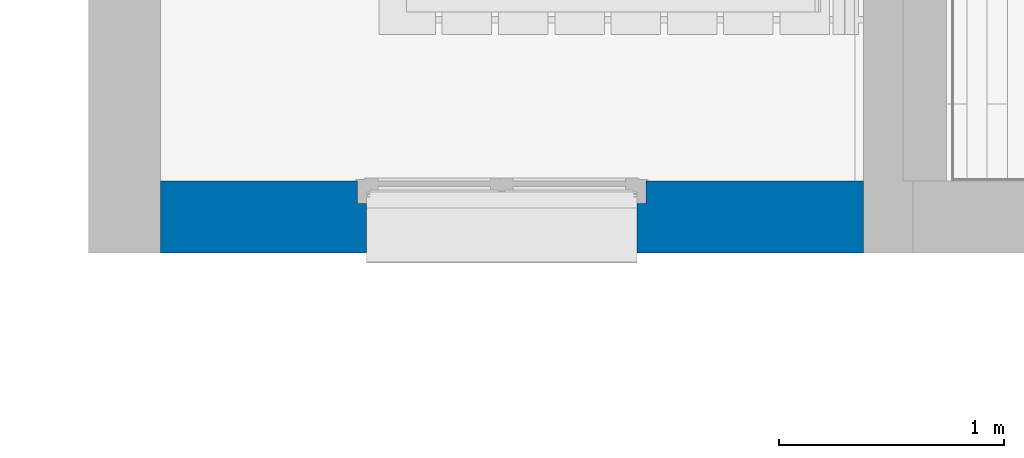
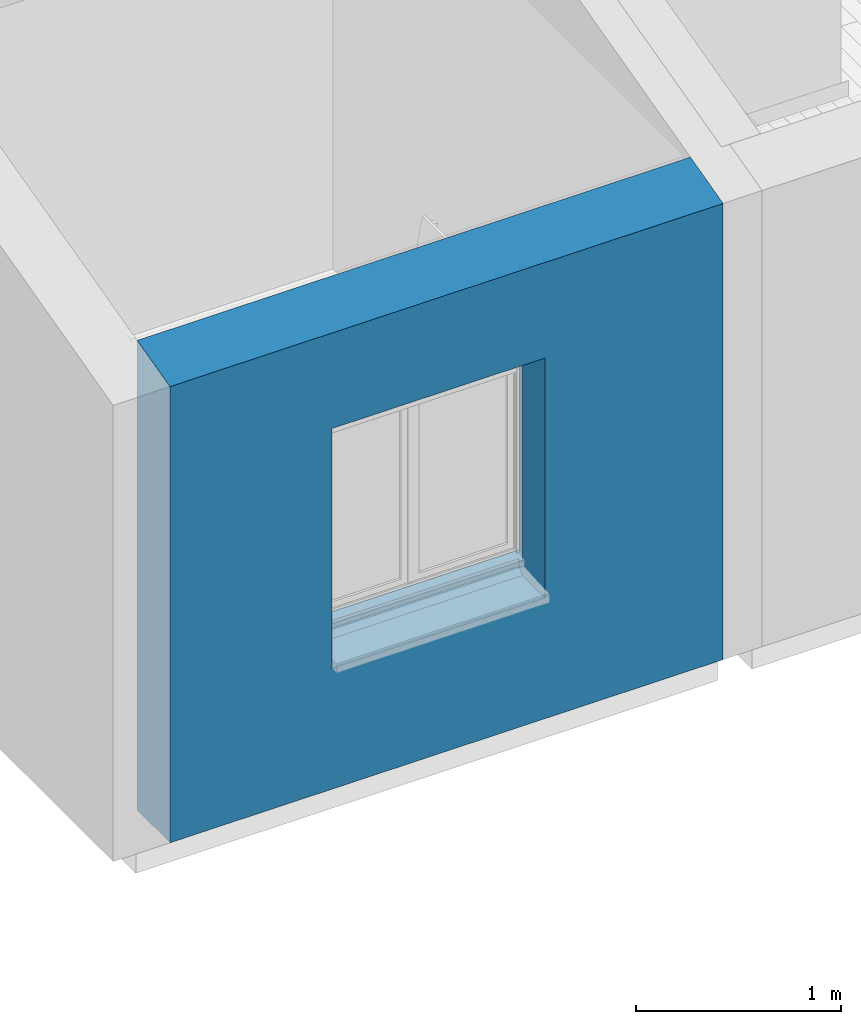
# One storey, part 25 of 50: 1 wall, 1 opening.
"""IFC2X3 building model written with IfcOpenShell, lengths in metres."""

from ifc_helpers import new_model, entity, si_unit, converted_unit, derived_unit, direction, frame, frame_2d, origin, place, context, subcontext, project, spatial, polyline, rectangle, extrude, clip, bounded_halfspace, faceted_brep, material, layer, layer_set, layer_usage, type_object, element, save


model = new_model("IFC2X3")

# Units and contexts
model_context = context("Model", 3, precision=1e-05, world=origin(), true_north=direction((6.12303176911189e-17, 1.0)))
context_of_model = context(None, 3, precision=1e-05, world=origin(), true_north=direction((6.12303176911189e-17, 1.0)))
body_context = subcontext(model_context, "Body", "Model", "MODEL_VIEW")
ifc_project = project(units=[si_unit("LENGTHUNIT", "METRE"), si_unit("AREAUNIT", "SQUARE_METRE"), si_unit("VOLUMEUNIT", "CUBIC_METRE"), converted_unit("PLANEANGLEUNIT", "DEGREE", entity("IfcRatioMeasure", 0.0174532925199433), si_unit("PLANEANGLEUNIT", "RADIAN"), dimensions=[0, 0, 0, 0, 0, 0, 0]), si_unit("MASSUNIT", "GRAM", prefix="KILO"), si_unit("TIMEUNIT", "SECOND"), si_unit("FREQUENCYUNIT", "HERTZ"), si_unit("THERMODYNAMICTEMPERATUREUNIT", "DEGREE_CELSIUS"), derived_unit("THERMALTRANSMITTANCEUNIT", [(si_unit("MASSUNIT", "GRAM", prefix="KILO"), 1), (si_unit("THERMODYNAMICTEMPERATUREUNIT", "KELVIN"), -1), (si_unit("TIMEUNIT", "SECOND"), -3)]), derived_unit("VOLUMETRICFLOWRATEUNIT", [(si_unit("LENGTHUNIT", "METRE"), 3), (si_unit("TIMEUNIT", "SECOND"), -1)]), si_unit("ELECTRICCURRENTUNIT", "AMPERE"), si_unit("ELECTRICVOLTAGEUNIT", "VOLT"), si_unit("POWERUNIT", "WATT"), si_unit("FORCEUNIT", "NEWTON", prefix="KILO"), si_unit("ILLUMINANCEUNIT", "LUX"), si_unit("LUMINOUSFLUXUNIT", "LUMEN"), si_unit("LUMINOUSINTENSITYUNIT", "CANDELA"), si_unit("PRESSUREUNIT", "PASCAL")], contexts=[model_context, context_of_model])

# Site, building, storey
site_placement = place(None, origin())
site = spatial("IfcSite", under=ifc_project, at=site_placement, Name="Surface", CompositionType="ELEMENT")
building_placement = place(site_placement, origin())
building = spatial("IfcBuilding", under=site, at=building_placement, CompositionType="ELEMENT")
storey_placement = place(building_placement, frame((0.0, 0.0, 2.82)))
storey = spatial("IfcBuildingStorey", under=building, at=storey_placement, Name="ETAGE", CompositionType="ELEMENT", Elevation=2.82)

# Wall, opening
ifc_material_1 = material(Name="Enduit  gris")
ifc_layer_1 = layer(ifc_material_1, 0.02)
ifc_material_2 = material(Name="Parpaing")
ifc_layer_2 = layer(ifc_material_2, 0.2)
ifc_material_3 = material(Name="Isolant")
ifc_layer_3 = layer(ifc_material_3, 0.1)
ifc_layer_set = layer_set([ifc_layer_1, ifc_layer_2, ifc_layer_3], Name="Mur de base:Ext. Parpaing 20 + Isolant 10 enduit gris")
ifc_layer_usage = layer_usage(ifc_layer_set, "AXIS2", "POSITIVE", -0.16)
wall_type = type_object("IfcWallType", Name="Mur de base:Ext. Parpaing 20 + Isolant 10 enduit gris", PredefinedType="STANDARD", material=ifc_layer_set)
wall_placement = place(storey_placement, frame((80.4110189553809, 81.0875239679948, 0.0)))
wall = element("IfcWallStandardCase", 1, at=wall_placement, inside=storey, type_object=wall_type, material=ifc_layer_usage, Name="Mur de base:Ext. Parpaing 20 + Isolant 10 enduit gris", ObjectType="Mur de base:Ext. Parpaing 20 + Isolant 10 enduit gris", context=body_context, shape_type="Clipping", body=[
    clip(extrude(rectangle(XDim=3.12038340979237, YDim=0.319999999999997, at=frame_2d((1.56019170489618, 0.0), x_axis=(-1.0, 0.0))), origin(), (0.0, 0.0, 1.0), 2.8022236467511), bounded_halfspace(frame((0.0, -0.159999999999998, 2.72), z_axis=(0.0, -0.248864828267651, 0.968538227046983), x_axis=(1.0, 0.0, 0.0)), False, frame((0.0, -0.159999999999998, 2.72)), polyline([(0.0, 0.0), (3.12038340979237, 0.0), (3.12038340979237, 0.319999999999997), (0.0, 0.319999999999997), (0.0, 0.0)]))),
])
opening_placement = place(wall_placement, frame((0.86499999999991, -0.499999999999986, 0.719999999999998)))
element("IfcOpeningElement", 2, at=opening_placement, cuts=wall, Name="Mur de base:Ext. Parpaing 20 + Isolant 10 enduit gris", ObjectType="Opening", context=body_context, shape_type="Brep", body=[
    faceted_brep([(1.25000000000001, 1.0, 1.43), (1.25000000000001, 1.0, 0.0800000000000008), (0.050000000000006, 1.0, 0.0800000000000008), (0.050000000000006, 1.0, 1.43), (1.25000000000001, 0.0, 1.43), (0.050000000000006, 0.0, 1.43), (0.050000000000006, 0.0, 0.0800000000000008), (1.25000000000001, 0.0, 0.0800000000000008), (0.050000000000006, 0.673000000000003, 1.43), (1.24999999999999, 0.672999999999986, 1.43), (0.050000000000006, 0.673000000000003, 0.0800000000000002), (1.24999999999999, 0.672999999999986, 0.0800000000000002), (1.29, 0.673000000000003, 0.0800000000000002), (1.29, 0.559999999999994, 0.0800000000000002), (1.25000000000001, 0.559999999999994, 0.0800000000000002), (1.25000000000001, 0.594999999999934, 0.0800000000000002), (0.050000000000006, 0.594999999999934, 0.0800000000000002), (0.050000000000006, 0.559999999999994, 0.0800000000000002), (0.0100000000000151, 0.559999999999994, 0.0800000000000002), (0.0100000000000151, 0.673000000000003, 0.0800000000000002), (0.00999999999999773, 0.672999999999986, 1.47), (1.29, 0.672999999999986, 1.47), (0.00999999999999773, 0.559999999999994, 1.47), (0.050000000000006, 0.559999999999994, 1.43), (1.24999999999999, 0.559999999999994, 1.43), (1.29, 0.559999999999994, 1.47), (1.3, 0.559999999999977, 1.47), (1.3, 0.559999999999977, 1.65), (0.0, 0.559999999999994, 1.65), (0.0, 0.559999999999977, 1.47), (0.0, 0.692999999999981, 1.65), (0.0, 0.692999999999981, 1.47), (1.3, 0.692999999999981, 1.65), (1.3, 0.692999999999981, 1.47), (0.050000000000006, 0.559999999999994, 0.0), (0.050000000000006, 0.594999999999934, 0.0349999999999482), (1.25000000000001, 0.594999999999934, 0.0349999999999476), (1.24999999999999, 0.559999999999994, 0.0), (0.050000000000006, 0.294999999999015, 0.0800000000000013), (0.050000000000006, 0.294999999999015, 0.0), (1.25000000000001, 0.294999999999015, 0.0), (1.24999999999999, 0.294999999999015, 0.0800000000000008)], [[[0, 1, 2, 3]], [[4, 5, 6, 7]], [[0, 3, 8, 9]], [[3, 2, 10, 8]], [[2, 1, 11, 12, 13, 14, 15, 16, 17, 18, 19, 10]], [[1, 0, 9, 11]], [[10, 19, 20, 21, 12, 11, 9, 8]], [[19, 18, 22, 20]], [[18, 17, 23, 24, 14, 13, 25, 26, 27, 28, 29, 22]], [[12, 21, 25, 13]], [[30, 31, 29, 28]], [[32, 27, 26, 33]], [[30, 28, 27, 32]], [[29, 31, 33, 26, 25, 21, 20, 22]], [[31, 30, 32, 33]], [[34, 35, 36, 37]], [[35, 16, 15, 36]], [[38, 39, 40, 41]], [[39, 34, 37, 40]], [[4, 7, 41, 40, 37, 36, 15, 14, 24]], [[7, 6, 38, 41]], [[6, 5, 23, 17, 16, 35, 34, 39, 38]], [[5, 4, 24, 23]]]),
])

save(model, "model.ifc")
